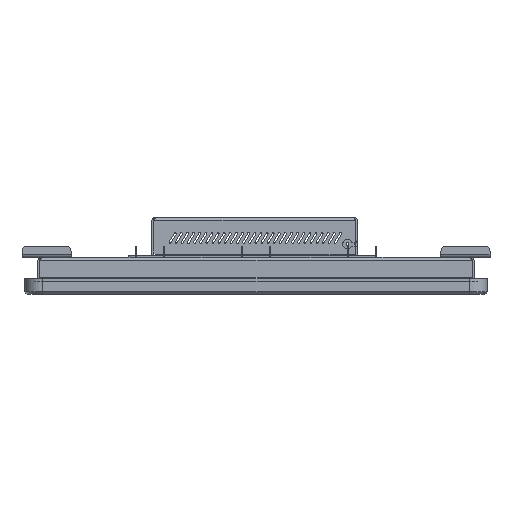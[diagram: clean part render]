
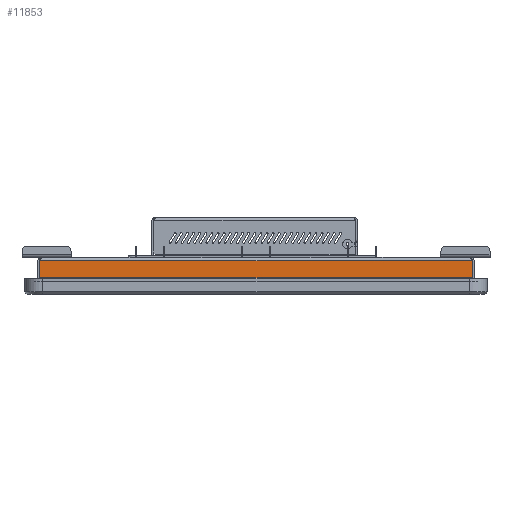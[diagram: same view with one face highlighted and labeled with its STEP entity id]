
A CAD part, left-side view. The second image highlights one B-rep face of the part: STEP entity #11853.
In plain terms, the highlighted planar face has unit normal (-1, 0, 0).
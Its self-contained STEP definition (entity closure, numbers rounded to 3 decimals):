
#11853=ADVANCED_FACE('',(#43875),#43877,.T.);
#43875=FACE_BOUND('',#43876,.T.);
#43876=EDGE_LOOP('',(#70519,#70520,#70521,#70522));
#43877=PLANE('',#43878);
#43878=AXIS2_PLACEMENT_3D('',#43879,#43880,#43881);
#43879=CARTESIAN_POINT('',(-245.5,-148.,232.496));
#43880=DIRECTION('',(-1.,0.,0.));
#43881=DIRECTION('',(0.,0.,-1.));
#70519=ORIENTED_EDGE('',*,*,#85877,.T.);
#70520=ORIENTED_EDGE('',*,*,#89547,.T.);
#70521=ORIENTED_EDGE('',*,*,#89548,.T.);
#70522=ORIENTED_EDGE('',*,*,#89549,.T.);
#85877=EDGE_CURVE('',#97257,#97255,#97258,.T.);
#89547=EDGE_CURVE('',#97255,#103466,#103467,.T.);
#89548=EDGE_CURVE('',#103466,#103468,#103469,.T.);
#89549=EDGE_CURVE('',#103468,#97257,#103470,.T.);
#97255=VERTEX_POINT('',#117803);
#97257=VERTEX_POINT('',#117819);
#97258=LINE('',#117820,#117821);
#103466=VERTEX_POINT('',#132217);
#103467=LINE('',#132218,#132219);
#103468=VERTEX_POINT('',#132221);
#103469=LINE('',#132222,#132223);
#103470=LINE('',#132225,#132226);
#117803=CARTESIAN_POINT('',(-245.5,177.017,31.7));
#117819=CARTESIAN_POINT('',(-245.5,-149.017,31.7));
#117820=CARTESIAN_POINT('',(-245.5,-149.017,31.7));
#117821=VECTOR('',#117822,1.);
#117822=DIRECTION('',(0.,1.,0.));
#132217=CARTESIAN_POINT('',(-245.5,177.017,18.7));
#132218=CARTESIAN_POINT('',(-245.5,177.017,31.7));
#132219=VECTOR('',#132220,1.);
#132220=DIRECTION('',(0.,0.,-1.));
#132221=CARTESIAN_POINT('',(-245.5,-149.017,18.7));
#132222=CARTESIAN_POINT('',(-245.5,177.017,18.7));
#132223=VECTOR('',#132224,1.);
#132224=DIRECTION('',(0.,-1.,0.));
#132225=CARTESIAN_POINT('',(-245.5,-149.017,18.7));
#132226=VECTOR('',#132227,1.);
#132227=DIRECTION('',(0.,0.,1.));
